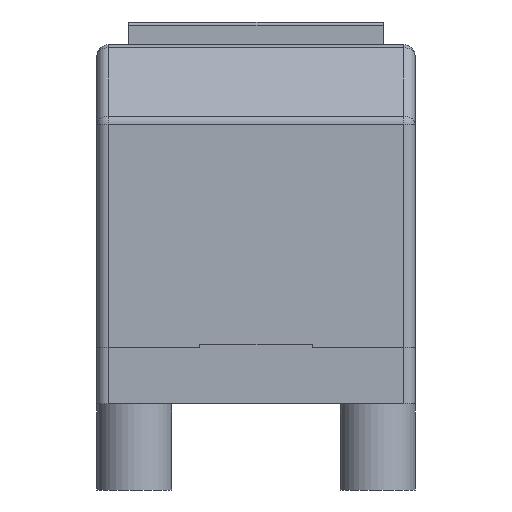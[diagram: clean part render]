
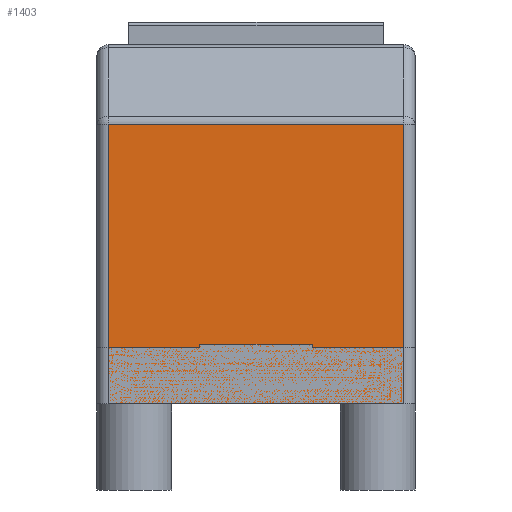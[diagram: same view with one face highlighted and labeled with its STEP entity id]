
A CAD part, left-side view. The second image highlights one B-rep face of the part: STEP entity #1403.
In plain terms, the highlighted planar face has unit normal (-1, 0, 0).
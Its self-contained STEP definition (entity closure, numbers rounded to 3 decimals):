
#1348=CARTESIAN_POINT('',(-55.5,-13.5,51.102));
#1349=DIRECTION('',(0.,1.,0.));
#1350=DIRECTION('',(1.,-0.,0.));
#1351=AXIS2_PLACEMENT_3D('',#1348,#1350,#1349);
#1352=PLANE('',#1351);
#1353=CARTESIAN_POINT('',(-55.5,-53.,0.));
#1354=VERTEX_POINT('',#1353);
#1355=CARTESIAN_POINT('',(-55.5,-46.,0.));
#1356=VERTEX_POINT('',#1355);
#1357=CARTESIAN_POINT('',(-55.5,-53.,0.));
#1358=DIRECTION('',(0.,1.,0.));
#1359=VECTOR('',#1358,7.);
#1360=LINE('',#1357,#1359);
#1361=EDGE_CURVE('',#1354,#1356,#1360,.T.);
#1362=ORIENTED_EDGE('E93',*,*,#1361,.T.);
#1363=CARTESIAN_POINT('',(-55.5,19.,0.));
#1364=VERTEX_POINT('',#1363);
#1365=CARTESIAN_POINT('',(-55.5,-46.,0.));
#1366=DIRECTION('',(0.,1.,0.));
#1367=VECTOR('',#1366,65.);
#1368=LINE('',#1365,#1367);
#1369=EDGE_CURVE('',#1356,#1364,#1368,.T.);
#1370=ORIENTED_EDGE('E310',*,*,#1369,.T.);
#1371=CARTESIAN_POINT('',(-55.5,26.,0.));
#1372=VERTEX_POINT('',#1371);
#1373=CARTESIAN_POINT('',(-55.5,19.,0.));
#1374=DIRECTION('',(0.,1.,0.));
#1375=VECTOR('',#1374,7.);
#1376=LINE('',#1373,#1375);
#1377=EDGE_CURVE('',#1364,#1372,#1376,.T.);
#1378=ORIENTED_EDGE('E304',*,*,#1377,.T.);
#1379=CARTESIAN_POINT('',(-55.5,26.,74.757));
#1380=VERTEX_POINT('',#1379);
#1381=CARTESIAN_POINT('',(-55.5,26.,0.));
#1382=DIRECTION('',(0.,0.,1.));
#1383=VECTOR('',#1382,74.757);
#1384=LINE('',#1381,#1383);
#1385=EDGE_CURVE('',#1372,#1380,#1384,.T.);
#1386=ORIENTED_EDGE('E109',*,*,#1385,.T.);
#1387=CARTESIAN_POINT('',(-55.5,-53.,74.757));
#1388=VERTEX_POINT('',#1387);
#1389=CARTESIAN_POINT('',(-55.5,26.,74.757));
#1390=DIRECTION('',(0.,-1.,0.));
#1391=VECTOR('',#1390,79.);
#1392=LINE('',#1389,#1391);
#1393=EDGE_CURVE('',#1380,#1388,#1392,.T.);
#1394=ORIENTED_EDGE('E130',*,*,#1393,.T.);
#1395=CARTESIAN_POINT('',(-55.5,-53.,0.));
#1396=DIRECTION('',(0.,0.,1.));
#1397=VECTOR('',#1396,74.757);
#1398=LINE('',#1395,#1397);
#1399=EDGE_CURVE('',#1354,#1388,#1398,.T.);
#1400=ORIENTED_EDGE('E108',*,*,#1399,.F.);
#1401=EDGE_LOOP('',(#1362,#1370,#1378,#1386,#1394,#1400));
#1402=FACE_OUTER_BOUND('',#1401,.F.);
#1403=ADVANCED_FACE('F40',(#1402),#1352,.F.);
